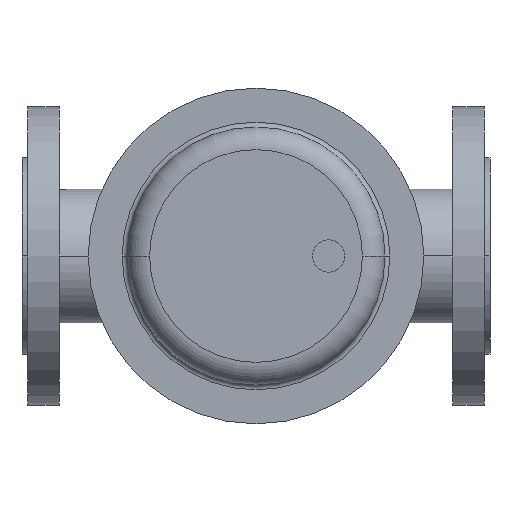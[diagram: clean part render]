
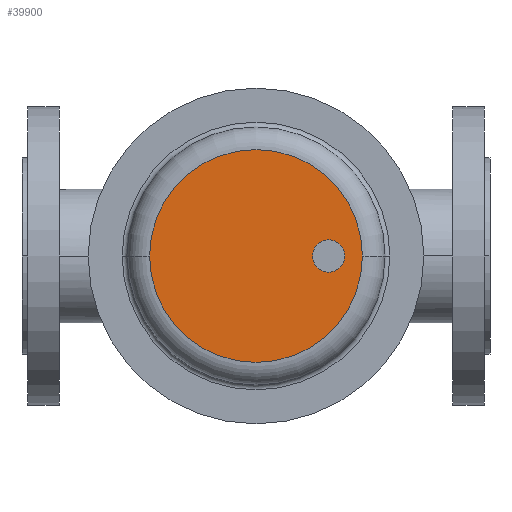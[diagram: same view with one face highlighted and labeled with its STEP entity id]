
A CAD part, front view. The second image highlights one B-rep face of the part: STEP entity #39900.
In plain terms, the highlighted planar face has unit normal (0, -1, 0).
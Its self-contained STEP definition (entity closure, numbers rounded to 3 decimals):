
#39400=CARTESIAN_POINT('',(79.07,-484.,0.));
#39410=VERTEX_POINT('',#39400);
#39510=CARTESIAN_POINT('',(210.93,-484.,0.));
#39520=VERTEX_POINT('',#39510);
#39550=CARTESIAN_POINT('',(145.,-484.,0.));
#39560=DIRECTION('',(0.,1.,0.));
#39570=DIRECTION('',(1.,0.,0.));
#39580=AXIS2_PLACEMENT_3D('',#39550,#39560,#39570);
#39590=CIRCLE('',#39580,65.93);
#39600=EDGE_CURVE('',#39410,#39520,#39590,.T.);
#39650=CARTESIAN_POINT('',(177.965,-484.,0.));
#39660=DIRECTION('',(0.,-1.,0.));
#39670=DIRECTION('',(-1.,0.,0.));
#39680=AXIS2_PLACEMENT_3D('',#39650,#39660,#39670);
#39690=PLANE('',#39680);
#39700=CARTESIAN_POINT('',(190.,-484.,0.));
#39710=DIRECTION('',(0.,1.,0.));
#39720=DIRECTION('',(1.,0.,0.));
#39730=AXIS2_PLACEMENT_3D('',#39700,#39710,#39720);
#39740=CIRCLE('',#39730,10.);
#39750=CARTESIAN_POINT('',(180.,-484.,0.));
#39760=VERTEX_POINT('',#39750);
#39770=CARTESIAN_POINT('',(200.,-484.,0.));
#39780=VERTEX_POINT('',#39770);
#39790=EDGE_CURVE('',#39760,#39780,#39740,.T.);
#39800=ORIENTED_EDGE('',*,*,#39790,.T.);
#39810=EDGE_CURVE('',#39780,#39760,#39740,.T.);
#39820=ORIENTED_EDGE('',*,*,#39810,.T.);
#39830=EDGE_LOOP('',(#39820,#39800));
#39840=FACE_BOUND('',#39830,.T.);
#39850=EDGE_CURVE('',#39520,#39410,#39590,.T.);
#39860=ORIENTED_EDGE('',*,*,#39850,.F.);
#39870=ORIENTED_EDGE('',*,*,#39600,.F.);
#39880=EDGE_LOOP('',(#39870,#39860));
#39890=FACE_OUTER_BOUND('',#39880,.T.);
#39900=ADVANCED_FACE('',(#39840,#39890),#39690,.T.);
